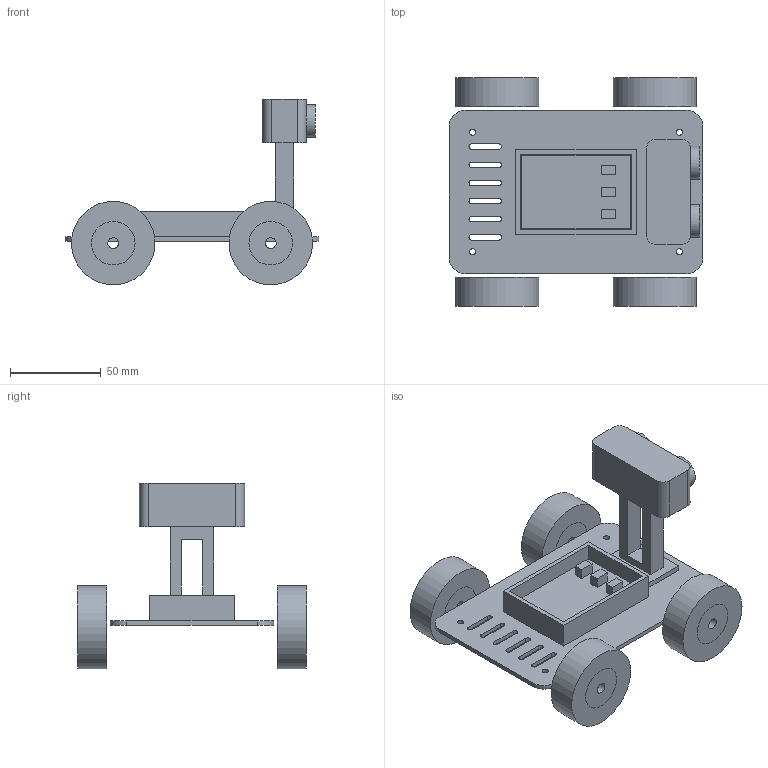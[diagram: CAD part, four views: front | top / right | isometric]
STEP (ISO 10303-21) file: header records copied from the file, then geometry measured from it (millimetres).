
FILE_DESCRIPTION(('Open CASCADE Model'),'2;1');
FILE_NAME('Open CASCADE Shape Model','2026-09-05T13:28:33',('Author'),( 'Open CASCADE'),'Open CASCADE STEP processor 7.8','Open CASCADE 7.8' ,'Unknown');
FILE_SCHEMA(('AUTOMOTIVE_DESIGN { 1 0 10303 214 1 1 1 1 }'));
Length unit declared in the file: millimetre
Products named in the file (19): Open CASCADE STEP translator 7.8 2; Open CASCADE STEP translator 7.8 2.1; Open CASCADE STEP translator 7.8 2.2; Open CASCADE STEP translator 7.8 2.3; Open CASCADE STEP translator 7.8 2.4; Open CASCADE STEP translator 7.8 2.5; Open CASCADE STEP translator 7.8 2.6; Open CASCADE STEP translator 7.8 2.7; Open CASCADE STEP translator 7.8 2.8; Open CASCADE STEP translator 7.8 2.9; Open CASCADE STEP translator 7.8 2.10; Open CASCADE STEP translator 7.8 2.11; Open CASCADE STEP translator 7.8 2.12; Open CASCADE STEP translator 7.8 2.13; Open CASCADE STEP translator 7.8 2.14; Open CASCADE STEP translator 7.8 2.15; Open CASCADE STEP translator 7.8 2.16; Open CASCADE STEP translator 7.8 2.17; Open CASCADE STEP translator 7.8 2.18
Assembly tree (18 placements, depth 2):
  Open CASCADE STEP translator 7.8 2
    Open CASCADE STEP translator 7.8 2.1
    Open CASCADE STEP translator 7.8 2.2
    Open CASCADE STEP translator 7.8 2.3
    Open CASCADE STEP translator 7.8 2.4
    Open CASCADE STEP translator 7.8 2.5
    Open CASCADE STEP translator 7.8 2.6
    Open CASCADE STEP translator 7.8 2.7
    Open CASCADE STEP translator 7.8 2.8
    Open CASCADE STEP translator 7.8 2.9
    Open CASCADE STEP translator 7.8 2.10
    Open CASCADE STEP translator 7.8 2.11
    Open CASCADE STEP translator 7.8 2.12
    Open CASCADE STEP translator 7.8 2.13
    Open CASCADE STEP translator 7.8 2.14
    Open CASCADE STEP translator 7.8 2.15
    Open CASCADE STEP translator 7.8 2.16
    Open CASCADE STEP translator 7.8 2.17
    Open CASCADE STEP translator 7.8 2.18
Bounding box: 140 x 126 x 102.4 mm (x, y, z)
Volume: 195816.7 mm3; surface area: 90355.4 mm2
Topology: 18 solids, 18 shells, 136 faces, 294 edges, 196 vertices
Faces by surface type: plane 94, cylinder 42
Full cylindrical faces by diameter (mm): 3.4 x4, 6 x4, 18 x2, 24 x8, 46 x4
Entity records: 7988 total; most frequent: CARTESIAN_POINT 1505, DIRECTION 1204, LINE 682, VECTOR 682, ORIENTED_EDGE 588, PCURVE 588, DEFINITIONAL_REPRESENTATION 588, EDGE_CURVE 294
